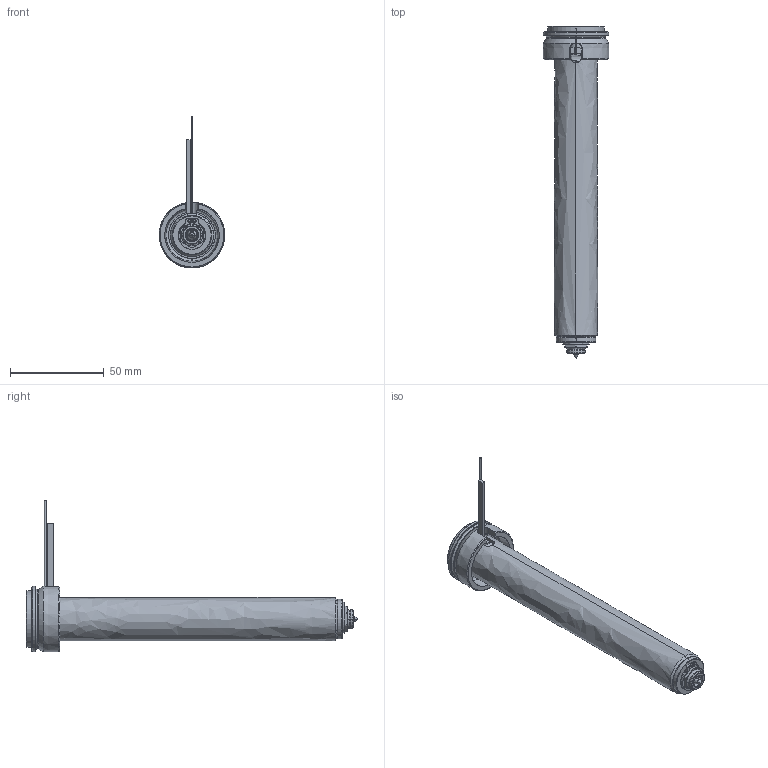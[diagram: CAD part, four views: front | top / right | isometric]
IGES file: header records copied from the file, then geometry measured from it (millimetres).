
Start section: SolidWorks IGES file using analytic representation for surfaces
Global section: file name: C:\Documents and Settings\ws-20\Desktop\TEM\UGEP3054-M-A-0 [Øf-0.50 ØC-7.0].IGS; native system: SolidWorks 2012; preprocessor: SolidWorks 2012; author: ws-20; date: 120402.143620; units: millimetre
Bounding box: 35 x 176.8 x 80.9 mm (x, y, z)
Surface area: 25560.1 mm2 (no closed solid volume)
Topology: 0 solids, 0 shells, 125 faces, 1708 edges, 1708 vertices
Faces by surface type: revolution 76, bspline 49
